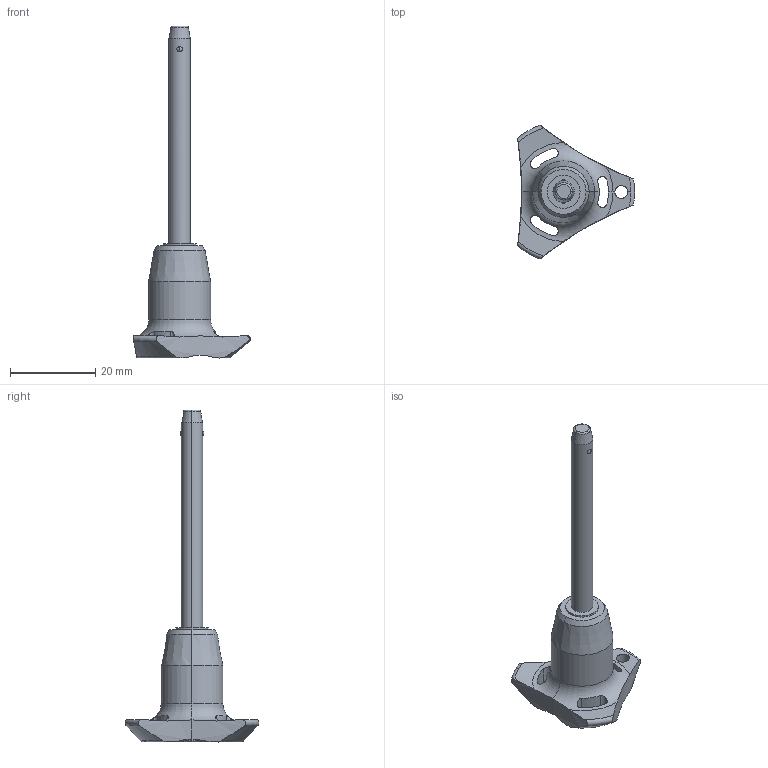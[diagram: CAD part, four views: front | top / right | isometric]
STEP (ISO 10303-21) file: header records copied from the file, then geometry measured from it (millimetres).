
FILE_DESCRIPTION (( 'STEP AP203' ), '1' );
FILE_NAME ('QR1724.M05-045-S.step', '2025-11-12T12:43:13', ( '' ), ( '' ), 'SwSTEP 2.0', 'SolidWorks 2019', '' );
FILE_SCHEMA (( 'CONFIG_CONTROL_DESIGN' ));
Length unit declared in the file: millimetre
Products named in the file (1): QR1724.M05-045-S
Bounding box: 27.4 x 31.31 x 77.7 mm (x, y, z)
Volume: 5751.6 mm3; surface area: 3215.1 mm2
Topology: 1 solids, 1 shells, 66 faces, 181 edges, 115 vertices
Faces by surface type: cylinder 30, cone 14, torus 12, sphere 6, plane 4
Entity records: 2693 total; most frequent: CARTESIAN_POINT 981, ORIENTED_EDGE 362, DIRECTION 332, EDGE_CURVE 181, AXIS2_PLACEMENT_3D 148, VERTEX_POINT 115, CIRCLE 81, EDGE_LOOP 72
